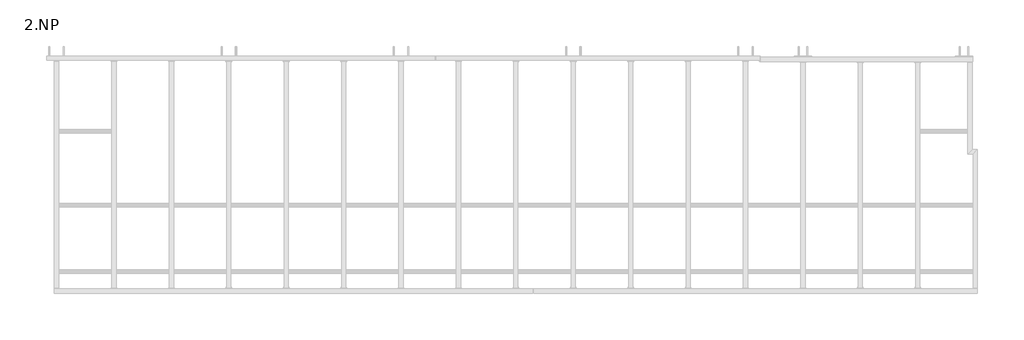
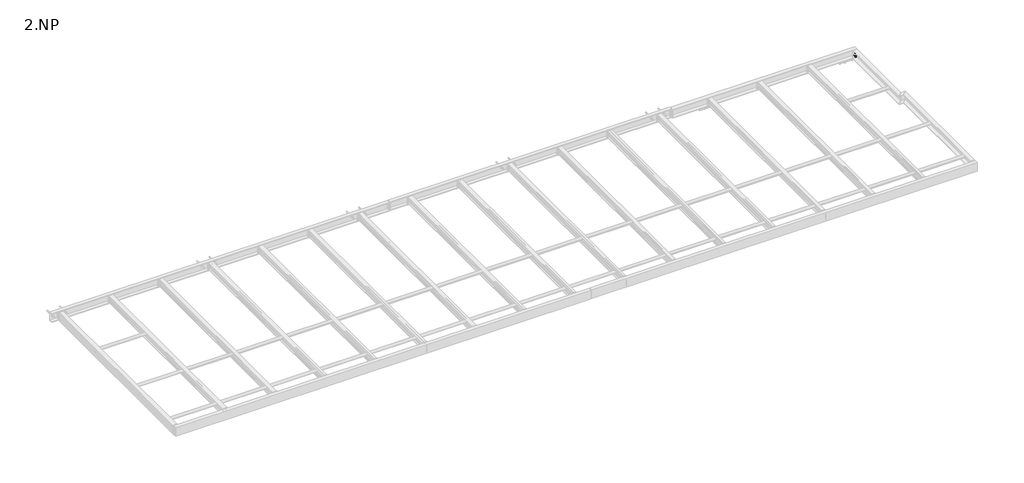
# One storey, part 16 of 18: 21 assemblies, 1 proxy.
"""IFC4 building model written with IfcOpenShell, lengths in millimetres."""

from ifc_helpers import new_model, si_unit, point, frame, frame_2d, origin, place, context, project, spatial, polyline, circle_curve, trimmed, segment, composite_curve, outline, extrude, element, save

model = new_model("IFC4")

# Units and contexts
model_context = context("Model", 3, world=origin())
ifc_project = project(units=[si_unit("LENGTHUNIT", "METRE", prefix="MILLI")], contexts=[model_context])

# Site, building, storey
site = spatial("IfcSite", under=ifc_project)
building = spatial("IfcBuilding", under=site)
storey = spatial("IfcBuildingStorey", under=building, Name="2.NP", Elevation=3000.0)

# Proxy
placement = place(None, origin())
element("IfcBuildingElementProxy", 1, Name="Bolt assembly", ObjectType="Bolt assembly", at=placement, inside=storey, context=model_context, shape_type="SweptSolid", body=[
    extrude(outline(composite_curve([segment(trimmed(circle_curve(frame_2d((3170.0, 15960.0)), 9.0), [point((3170.0, 15969.0))], [point((3170.0, 15951.0))], False, "CARTESIAN"), True, "CONTINUOUS"), segment(trimmed(circle_curve(frame_2d((3170.0, 15960.0)), 9.0), [point((3170.0, 15951.0))], [point((3170.0, 15969.0))], False, "CARTESIAN"), True, "CONTINUOUS")], self_intersect=False)), frame((0.0, 3754.9, 0.0), z_axis=(0.0, 1.0, 0.0), x_axis=(0.0, 0.0, 1.0)), (0.0, 0.0, 1.0), 10.0),
    extrude(outline(polyline([(3170.0, 15973.8564065), (3182.0, 15966.9282032), (3182.0, 15953.0717968), (3170.0, 15946.1435935), (3158.0, 15953.0717968), (3158.0, 15966.9282032), (3170.0, 15973.8564065)])), frame((0.0, 3768.0, 0.0), z_axis=(0.0, 1.0, 0.0), x_axis=(0.0, 0.0, 1.0)), (0.0, 0.0, 1.0), 10.0),
    extrude(outline(composite_curve([segment(trimmed(circle_curve(frame_2d((3170.0, 15960.0)), 8.0), [point((3170.0, 15968.0))], [point((3170.0, 15952.0))], False, "CARTESIAN"), True, "CONTINUOUS"), segment(trimmed(circle_curve(frame_2d((3170.0, 15960.0)), 8.0), [point((3170.0, 15952.0))], [point((3170.0, 15968.0))], False, "CARTESIAN"), True, "CONTINUOUS")], self_intersect=False)), frame((0.0, 3718.0, 0.0), z_axis=(0.0, 1.0, 0.0), x_axis=(0.0, 0.0, 1.0)), (0.0, 0.0, 1.0), 50.0),
    extrude(outline(composite_curve([segment(trimmed(circle_curve(frame_2d((3170.0, 15960.0)), 15.0), [point((3170.0, 15975.0))], [point((3170.0, 15945.0))], False, "CARTESIAN"), True, "CONTINUOUS"), segment(trimmed(circle_curve(frame_2d((3170.0, 15960.0)), 15.0), [point((3170.0, 15945.0))], [point((3170.0, 15975.0))], False, "CARTESIAN"), True, "CONTINUOUS")], self_intersect=False)), frame((0.0, 3765.0, 0.0), z_axis=(0.0, 1.0, 0.0), x_axis=(0.0, 0.0, 1.0)), (0.0, 0.0, 1.0), 3.0),
    extrude(outline(composite_curve([segment(trimmed(circle_curve(frame_2d((3170.0, 15960.0)), 15.0), [point((3170.0, 15975.0))], [point((3170.0, 15945.0))], False, "CARTESIAN"), True, "CONTINUOUS"), segment(trimmed(circle_curve(frame_2d((3170.0, 15960.0)), 15.0), [point((3170.0, 15945.0))], [point((3170.0, 15975.0))], False, "CARTESIAN"), True, "CONTINUOUS")], self_intersect=False)), frame((0.0, 3742.0, 0.0), z_axis=(0.0, 1.0, 0.0), x_axis=(0.0, 0.0, 1.0)), (0.0, 0.0, 1.0), 3.0),
    extrude(outline(polyline([(3170.0, 15975.4441197), (3183.375, 15967.7220599), (3183.375, 15952.2779401), (3170.0, 15944.5558803), (3156.625, 15952.2779401), (3156.625, 15967.7220599), (3170.0, 15975.4441197)])), frame((0.0, 3729.0, 0.0), z_axis=(0.0, 1.0, 0.0), x_axis=(0.0, 0.0, 1.0)), (0.0, 0.0, 1.0), 13.0),
    extrude(outline(composite_curve([segment(trimmed(circle_curve(frame_2d((3170.0, 15960.0)), 9.0), [point((3170.0, 15969.0))], [point((3170.0, 15951.0))], False, "CARTESIAN"), True, "CONTINUOUS"), segment(trimmed(circle_curve(frame_2d((3170.0, 15960.0)), 9.0), [point((3170.0, 15951.0))], [point((3170.0, 15969.0))], False, "CARTESIAN"), True, "CONTINUOUS")], self_intersect=False)), frame((0.0, 3745.0, 0.0), z_axis=(0.0, 1.0, 0.0), x_axis=(0.0, 0.0, 1.0)), (0.0, 0.0, 1.0), 10.1),
    extrude(outline(composite_curve([segment(trimmed(circle_curve(frame_2d((3250.0, 15960.0)), 9.0), [point((3250.0, 15969.0))], [point((3250.0, 15951.0))], False, "CARTESIAN"), True, "CONTINUOUS"), segment(trimmed(circle_curve(frame_2d((3250.0, 15960.0)), 9.0), [point((3250.0, 15951.0))], [point((3250.0, 15969.0))], False, "CARTESIAN"), True, "CONTINUOUS")], self_intersect=False)), frame((0.0, 3754.9, 0.0), z_axis=(0.0, 1.0, 0.0), x_axis=(0.0, 0.0, 1.0)), (0.0, 0.0, 1.0), 10.0),
    extrude(outline(polyline([(3250.0, 15973.8564065), (3262.0, 15966.9282032), (3262.0, 15953.0717968), (3250.0, 15946.1435935), (3238.0, 15953.0717968), (3238.0, 15966.9282032), (3250.0, 15973.8564065)])), frame((0.0, 3768.0, 0.0), z_axis=(0.0, 1.0, 0.0), x_axis=(0.0, 0.0, 1.0)), (0.0, 0.0, 1.0), 10.0),
    extrude(outline(composite_curve([segment(trimmed(circle_curve(frame_2d((3250.0, 15960.0)), 8.0), [point((3250.0, 15968.0))], [point((3250.0, 15952.0))], False, "CARTESIAN"), True, "CONTINUOUS"), segment(trimmed(circle_curve(frame_2d((3250.0, 15960.0)), 8.0), [point((3250.0, 15952.0))], [point((3250.0, 15968.0))], False, "CARTESIAN"), True, "CONTINUOUS")], self_intersect=False)), frame((0.0, 3718.0, 0.0), z_axis=(0.0, 1.0, 0.0), x_axis=(0.0, 0.0, 1.0)), (0.0, 0.0, 1.0), 50.0),
    extrude(outline(composite_curve([segment(trimmed(circle_curve(frame_2d((3250.0, 15960.0)), 15.0), [point((3250.0, 15975.0))], [point((3250.0, 15945.0))], False, "CARTESIAN"), True, "CONTINUOUS"), segment(trimmed(circle_curve(frame_2d((3250.0, 15960.0)), 15.0), [point((3250.0, 15945.0))], [point((3250.0, 15975.0))], False, "CARTESIAN"), True, "CONTINUOUS")], self_intersect=False)), frame((0.0, 3765.0, 0.0), z_axis=(0.0, 1.0, 0.0), x_axis=(0.0, 0.0, 1.0)), (0.0, 0.0, 1.0), 3.0),
    extrude(outline(composite_curve([segment(trimmed(circle_curve(frame_2d((3250.0, 15960.0)), 15.0), [point((3250.0, 15975.0))], [point((3250.0, 15945.0))], False, "CARTESIAN"), True, "CONTINUOUS"), segment(trimmed(circle_curve(frame_2d((3250.0, 15960.0)), 15.0), [point((3250.0, 15945.0))], [point((3250.0, 15975.0))], False, "CARTESIAN"), True, "CONTINUOUS")], self_intersect=False)), frame((0.0, 3742.0, 0.0), z_axis=(0.0, 1.0, 0.0), x_axis=(0.0, 0.0, 1.0)), (0.0, 0.0, 1.0), 3.0),
    extrude(outline(polyline([(3250.0, 15975.4441197), (3263.375, 15967.7220599), (3263.375, 15952.2779401), (3250.0, 15944.5558803), (3236.625, 15952.2779401), (3236.625, 15967.7220599), (3250.0, 15975.4441197)])), frame((0.0, 3729.0, 0.0), z_axis=(0.0, 1.0, 0.0), x_axis=(0.0, 0.0, 1.0)), (0.0, 0.0, 1.0), 13.0),
    extrude(outline(composite_curve([segment(trimmed(circle_curve(frame_2d((3250.0, 15960.0)), 9.0), [point((3250.0, 15969.0))], [point((3250.0, 15951.0))], False, "CARTESIAN"), True, "CONTINUOUS"), segment(trimmed(circle_curve(frame_2d((3250.0, 15960.0)), 9.0), [point((3250.0, 15951.0))], [point((3250.0, 15969.0))], False, "CARTESIAN"), True, "CONTINUOUS")], self_intersect=False)), frame((0.0, 3745.0, 0.0), z_axis=(0.0, 1.0, 0.0), x_axis=(0.0, 0.0, 1.0)), (0.0, 0.0, 1.0), 10.1),
])

# Assemblies
element("IfcElementAssembly", 2, at=placement, inside=storey, context=model_context, shape_type="SweptSolid", body=[
    extrude(outline(composite_curve([segment(trimmed(circle_curve(frame_2d((1260.0, 3230.0)), 30.15), [point((1290.15, 3230.0))], [point((1229.85, 3230.0))], False, "CARTESIAN"), True, "CONTINUOUS"), segment(trimmed(circle_curve(frame_2d((1260.0, 3230.0)), 30.15), [point((1229.85, 3230.0))], [point((1290.15, 3230.0))], False, "CARTESIAN"), True, "CONTINUOUS")], self_intersect=False), holes=[composite_curve([segment(trimmed(circle_curve(frame_2d((1260.0, 3230.0)), 25.15), [point((1285.15, 3230.0))], [point((1234.85, 3230.0))], True, "CARTESIAN"), True, "CONTINUOUS"), segment(trimmed(circle_curve(frame_2d((1260.0, 3230.0)), 25.15), [point((1234.85, 3230.0))], [point((1285.15, 3230.0))], True, "CARTESIAN"), True, "CONTINUOUS")], self_intersect=False)]), frame((15.45, 0.0, 0.0), z_axis=(1.0, 0.0, 0.0), x_axis=(0.0, 1.0, 0.0)), (0.0, 0.0, 1.0), 1032.2),
])
element("IfcElementAssembly", 3, at=placement, inside=storey, context=model_context, shape_type="SweptSolid", body=[
    extrude(outline(composite_curve([segment(trimmed(circle_curve(frame_2d((1260.0, 3230.0)), 30.15), [point((1290.15, 3230.0))], [point((1229.85, 3230.0))], False, "CARTESIAN"), True, "CONTINUOUS"), segment(trimmed(circle_curve(frame_2d((1260.0, 3230.0)), 30.15), [point((1229.85, 3230.0))], [point((1290.15, 3230.0))], False, "CARTESIAN"), True, "CONTINUOUS")], self_intersect=False), holes=[composite_curve([segment(trimmed(circle_curve(frame_2d((1260.0, 3230.0)), 25.15), [point((1285.15, 3230.0))], [point((1234.85, 3230.0))], True, "CARTESIAN"), True, "CONTINUOUS"), segment(trimmed(circle_curve(frame_2d((1260.0, 3230.0)), 25.15), [point((1234.85, 3230.0))], [point((1285.15, 3230.0))], True, "CARTESIAN"), True, "CONTINUOUS")], self_intersect=False)]), frame((1052.35, 0.0, 0.0), z_axis=(1.0, 0.0, 0.0), x_axis=(0.0, 1.0, 0.0)), (0.0, 0.0, 1.0), 995.3),
])
element("IfcElementAssembly", 4, at=placement, inside=storey, context=model_context, shape_type="SweptSolid", body=[
    extrude(outline(composite_curve([segment(trimmed(circle_curve(frame_2d((1260.0, 3230.0)), 30.15), [point((1290.15, 3230.0))], [point((1229.85, 3230.0))], False, "CARTESIAN"), True, "CONTINUOUS"), segment(trimmed(circle_curve(frame_2d((1260.0, 3230.0)), 30.15), [point((1229.85, 3230.0))], [point((1290.15, 3230.0))], False, "CARTESIAN"), True, "CONTINUOUS")], self_intersect=False), holes=[composite_curve([segment(trimmed(circle_curve(frame_2d((1260.0, 3230.0)), 25.15), [point((1285.15, 3230.0))], [point((1234.85, 3230.0))], True, "CARTESIAN"), True, "CONTINUOUS"), segment(trimmed(circle_curve(frame_2d((1260.0, 3230.0)), 25.15), [point((1234.85, 3230.0))], [point((1285.15, 3230.0))], True, "CARTESIAN"), True, "CONTINUOUS")], self_intersect=False)]), frame((2052.35, 0.0, 0.0), z_axis=(1.0, 0.0, 0.0), x_axis=(0.0, 1.0, 0.0)), (0.0, 0.0, 1.0), 995.3),
])
element("IfcElementAssembly", 5, at=placement, inside=storey, context=model_context, shape_type="SweptSolid", body=[
    extrude(outline(composite_curve([segment(trimmed(circle_curve(frame_2d((1260.0, 3230.0)), 30.15), [point((1290.15, 3230.0))], [point((1229.85, 3230.0))], False, "CARTESIAN"), True, "CONTINUOUS"), segment(trimmed(circle_curve(frame_2d((1260.0, 3230.0)), 30.15), [point((1229.85, 3230.0))], [point((1290.15, 3230.0))], False, "CARTESIAN"), True, "CONTINUOUS")], self_intersect=False), holes=[composite_curve([segment(trimmed(circle_curve(frame_2d((1260.0, 3230.0)), 25.15), [point((1285.15, 3230.0))], [point((1234.85, 3230.0))], True, "CARTESIAN"), True, "CONTINUOUS"), segment(trimmed(circle_curve(frame_2d((1260.0, 3230.0)), 25.15), [point((1234.85, 3230.0))], [point((1285.15, 3230.0))], True, "CARTESIAN"), True, "CONTINUOUS")], self_intersect=False)]), frame((3052.35, 0.0, 0.0), z_axis=(1.0, 0.0, 0.0), x_axis=(0.0, 1.0, 0.0)), (0.0, 0.0, 1.0), 995.3),
])
element("IfcElementAssembly", 6, at=placement, inside=storey, context=model_context, shape_type="SweptSolid", body=[
    extrude(outline(composite_curve([segment(trimmed(circle_curve(frame_2d((1260.0, 3230.0)), 30.15), [point((1290.15, 3230.0))], [point((1229.85, 3230.0))], False, "CARTESIAN"), True, "CONTINUOUS"), segment(trimmed(circle_curve(frame_2d((1260.0, 3230.0)), 30.15), [point((1229.85, 3230.0))], [point((1290.15, 3230.0))], False, "CARTESIAN"), True, "CONTINUOUS")], self_intersect=False), holes=[composite_curve([segment(trimmed(circle_curve(frame_2d((1260.0, 3230.0)), 25.15), [point((1285.15, 3230.0))], [point((1234.85, 3230.0))], True, "CARTESIAN"), True, "CONTINUOUS"), segment(trimmed(circle_curve(frame_2d((1260.0, 3230.0)), 25.15), [point((1234.85, 3230.0))], [point((1285.15, 3230.0))], True, "CARTESIAN"), True, "CONTINUOUS")], self_intersect=False)]), frame((4052.35, 0.0, 0.0), z_axis=(1.0, 0.0, 0.0), x_axis=(0.0, 1.0, 0.0)), (0.0, 0.0, 1.0), 995.3),
])
element("IfcElementAssembly", 7, at=placement, inside=storey, context=model_context, shape_type="SweptSolid", body=[
    extrude(outline(composite_curve([segment(trimmed(circle_curve(frame_2d((1260.0, 3230.0)), 30.15), [point((1290.15, 3230.0))], [point((1229.85, 3230.0))], False, "CARTESIAN"), True, "CONTINUOUS"), segment(trimmed(circle_curve(frame_2d((1260.0, 3230.0)), 30.15), [point((1229.85, 3230.0))], [point((1290.15, 3230.0))], False, "CARTESIAN"), True, "CONTINUOUS")], self_intersect=False), holes=[composite_curve([segment(trimmed(circle_curve(frame_2d((1260.0, 3230.0)), 25.15), [point((1285.15, 3230.0))], [point((1234.85, 3230.0))], True, "CARTESIAN"), True, "CONTINUOUS"), segment(trimmed(circle_curve(frame_2d((1260.0, 3230.0)), 25.15), [point((1234.85, 3230.0))], [point((1285.15, 3230.0))], True, "CARTESIAN"), True, "CONTINUOUS")], self_intersect=False)]), frame((5052.35, 0.0, 0.0), z_axis=(1.0, 0.0, 0.0), x_axis=(0.0, 1.0, 0.0)), (0.0, 0.0, 1.0), 995.3),
])
element("IfcElementAssembly", 8, at=placement, inside=storey, context=model_context, shape_type="SweptSolid", body=[
    extrude(outline(composite_curve([segment(trimmed(circle_curve(frame_2d((100.0, 3230.0)), 30.15), [point((130.15, 3230.0))], [point((69.85, 3230.0))], False, "CARTESIAN"), True, "CONTINUOUS"), segment(trimmed(circle_curve(frame_2d((100.0, 3230.0)), 30.15), [point((69.85, 3230.0))], [point((130.15, 3230.0))], False, "CARTESIAN"), True, "CONTINUOUS")], self_intersect=False), holes=[composite_curve([segment(trimmed(circle_curve(frame_2d((100.0, 3230.0)), 25.15), [point((125.15, 3230.0))], [point((74.85, 3230.0))], True, "CARTESIAN"), True, "CONTINUOUS"), segment(trimmed(circle_curve(frame_2d((100.0, 3230.0)), 25.15), [point((74.85, 3230.0))], [point((125.15, 3230.0))], True, "CARTESIAN"), True, "CONTINUOUS")], self_intersect=False)]), frame((1052.35, 0.0, 0.0), z_axis=(1.0, 0.0, 0.0), x_axis=(0.0, 1.0, 0.0)), (0.0, 0.0, 1.0), 995.3),
])
element("IfcElementAssembly", 9, at=placement, inside=storey, context=model_context, shape_type="SweptSolid", body=[
    extrude(outline(composite_curve([segment(trimmed(circle_curve(frame_2d((100.0, 3230.0)), 30.15), [point((130.15, 3230.0))], [point((69.85, 3230.0))], False, "CARTESIAN"), True, "CONTINUOUS"), segment(trimmed(circle_curve(frame_2d((100.0, 3230.0)), 30.15), [point((69.85, 3230.0))], [point((130.15, 3230.0))], False, "CARTESIAN"), True, "CONTINUOUS")], self_intersect=False), holes=[composite_curve([segment(trimmed(circle_curve(frame_2d((100.0, 3230.0)), 25.15), [point((125.15, 3230.0))], [point((74.85, 3230.0))], True, "CARTESIAN"), True, "CONTINUOUS"), segment(trimmed(circle_curve(frame_2d((100.0, 3230.0)), 25.15), [point((74.85, 3230.0))], [point((125.15, 3230.0))], True, "CARTESIAN"), True, "CONTINUOUS")], self_intersect=False)]), frame((15.45, 0.0, 0.0), z_axis=(1.0, 0.0, 0.0), x_axis=(0.0, 1.0, 0.0)), (0.0, 0.0, 1.0), 1032.2),
])
element("IfcElementAssembly", 10, at=placement, inside=storey, context=model_context, shape_type="SweptSolid", body=[
    extrude(outline(composite_curve([segment(trimmed(circle_curve(frame_2d((100.0, 3230.0)), 30.15), [point((130.15, 3230.0))], [point((69.85, 3230.0))], False, "CARTESIAN"), True, "CONTINUOUS"), segment(trimmed(circle_curve(frame_2d((100.0, 3230.0)), 30.15), [point((69.85, 3230.0))], [point((130.15, 3230.0))], False, "CARTESIAN"), True, "CONTINUOUS")], self_intersect=False), holes=[composite_curve([segment(trimmed(circle_curve(frame_2d((100.0, 3230.0)), 25.15), [point((125.15, 3230.0))], [point((74.85, 3230.0))], True, "CARTESIAN"), True, "CONTINUOUS"), segment(trimmed(circle_curve(frame_2d((100.0, 3230.0)), 25.15), [point((74.85, 3230.0))], [point((125.15, 3230.0))], True, "CARTESIAN"), True, "CONTINUOUS")], self_intersect=False)]), frame((2052.35, 0.0, 0.0), z_axis=(1.0, 0.0, 0.0), x_axis=(0.0, 1.0, 0.0)), (0.0, 0.0, 1.0), 995.3),
])
element("IfcElementAssembly", 11, at=placement, inside=storey, context=model_context, shape_type="SweptSolid", body=[
    extrude(outline(composite_curve([segment(trimmed(circle_curve(frame_2d((100.0, 3230.0)), 30.15), [point((130.15, 3230.0))], [point((69.85, 3230.0))], False, "CARTESIAN"), True, "CONTINUOUS"), segment(trimmed(circle_curve(frame_2d((100.0, 3230.0)), 30.15), [point((69.85, 3230.0))], [point((130.15, 3230.0))], False, "CARTESIAN"), True, "CONTINUOUS")], self_intersect=False), holes=[composite_curve([segment(trimmed(circle_curve(frame_2d((100.0, 3230.0)), 25.15), [point((125.15, 3230.0))], [point((74.85, 3230.0))], True, "CARTESIAN"), True, "CONTINUOUS"), segment(trimmed(circle_curve(frame_2d((100.0, 3230.0)), 25.15), [point((74.85, 3230.0))], [point((125.15, 3230.0))], True, "CARTESIAN"), True, "CONTINUOUS")], self_intersect=False)]), frame((3052.35, 0.0, 0.0), z_axis=(1.0, 0.0, 0.0), x_axis=(0.0, 1.0, 0.0)), (0.0, 0.0, 1.0), 995.3),
])
element("IfcElementAssembly", 12, at=placement, inside=storey, context=model_context, shape_type="SweptSolid", body=[
    extrude(outline(composite_curve([segment(trimmed(circle_curve(frame_2d((100.0, 3230.0)), 30.15), [point((130.15, 3230.0))], [point((69.85, 3230.0))], False, "CARTESIAN"), True, "CONTINUOUS"), segment(trimmed(circle_curve(frame_2d((100.0, 3230.0)), 30.15), [point((69.85, 3230.0))], [point((130.15, 3230.0))], False, "CARTESIAN"), True, "CONTINUOUS")], self_intersect=False), holes=[composite_curve([segment(trimmed(circle_curve(frame_2d((100.0, 3230.0)), 25.15), [point((125.15, 3230.0))], [point((74.85, 3230.0))], True, "CARTESIAN"), True, "CONTINUOUS"), segment(trimmed(circle_curve(frame_2d((100.0, 3230.0)), 25.15), [point((74.85, 3230.0))], [point((125.15, 3230.0))], True, "CARTESIAN"), True, "CONTINUOUS")], self_intersect=False)]), frame((4052.35, 0.0, 0.0), z_axis=(1.0, 0.0, 0.0), x_axis=(0.0, 1.0, 0.0)), (0.0, 0.0, 1.0), 995.3),
])
element("IfcElementAssembly", 13, at=placement, inside=storey, context=model_context, shape_type="SweptSolid", body=[
    extrude(outline(composite_curve([segment(trimmed(circle_curve(frame_2d((100.0, 3230.0)), 30.15), [point((130.15, 3230.0))], [point((69.85, 3230.0))], False, "CARTESIAN"), True, "CONTINUOUS"), segment(trimmed(circle_curve(frame_2d((100.0, 3230.0)), 30.15), [point((69.85, 3230.0))], [point((130.15, 3230.0))], False, "CARTESIAN"), True, "CONTINUOUS")], self_intersect=False), holes=[composite_curve([segment(trimmed(circle_curve(frame_2d((100.0, 3230.0)), 25.15), [point((125.15, 3230.0))], [point((74.85, 3230.0))], True, "CARTESIAN"), True, "CONTINUOUS"), segment(trimmed(circle_curve(frame_2d((100.0, 3230.0)), 25.15), [point((74.85, 3230.0))], [point((125.15, 3230.0))], True, "CARTESIAN"), True, "CONTINUOUS")], self_intersect=False)]), frame((5052.35, 0.0, 0.0), z_axis=(1.0, 0.0, 0.0), x_axis=(0.0, 1.0, 0.0)), (0.0, 0.0, 1.0), 995.3),
])
element("IfcElementAssembly", 14, at=placement, inside=storey, context=model_context, shape_type="SweptSolid", body=[
    extrude(outline(composite_curve([segment(trimmed(circle_curve(frame_2d((2550.0, 3230.0)), 30.15), [point((2580.15, 3230.0))], [point((2519.85, 3230.0))], False, "CARTESIAN"), True, "CONTINUOUS"), segment(trimmed(circle_curve(frame_2d((2550.0, 3230.0)), 30.15), [point((2519.85, 3230.0))], [point((2580.15, 3230.0))], False, "CARTESIAN"), True, "CONTINUOUS")], self_intersect=False), holes=[composite_curve([segment(trimmed(circle_curve(frame_2d((2550.0, 3230.0)), 25.15), [point((2575.15, 3230.0))], [point((2524.85, 3230.0))], True, "CARTESIAN"), True, "CONTINUOUS"), segment(trimmed(circle_curve(frame_2d((2550.0, 3230.0)), 25.15), [point((2524.85, 3230.0))], [point((2575.15, 3230.0))], True, "CARTESIAN"), True, "CONTINUOUS")], self_intersect=False)]), frame((15.5, 0.0, 0.0), z_axis=(1.0, 0.0, 0.0), x_axis=(0.0, 1.0, 0.0)), (0.0, 0.0, 1.0), 1034.5),
])
element("IfcElementAssembly", 15, at=placement, inside=storey, context=model_context, shape_type="SweptSolid", body=[
    extrude(outline(composite_curve([segment(polyline([(3160.0, 3013.5), (3160.0, 3086.5), (3166.9000001, 3086.5), (3166.9000001, 3059.3499999)]), True, "CONTINUOUS"), segment(trimmed(circle_curve(frame_2d((3173.9000001, 3059.3499999)), 7.0), [point((3166.9000001, 3059.3499999))], [point((3173.9000001, 3052.3499999))], True, "CARTESIAN"), True, "CONTINUOUS"), segment(polyline([(3173.9000001, 3052.3499999), (3286.0999999, 3052.3499999)]), True, "CONTINUOUS"), segment(trimmed(circle_curve(frame_2d((3286.0999999, 3059.3499999)), 7.0), [point((3286.0999999, 3052.3499999))], [point((3293.0999999, 3059.3499999))], True, "CARTESIAN"), True, "CONTINUOUS"), segment(polyline([(3293.0999999, 3059.3499999), (3293.0999999, 3086.5), (3300.0, 3086.5), (3300.0, 3013.5), (3293.0999999, 3013.5), (3293.0999999, 3040.6500001)]), True, "CONTINUOUS"), segment(trimmed(circle_curve(frame_2d((3286.0999999, 3040.6500001)), 7.0), [point((3293.0999999, 3040.6500001))], [point((3286.0999999, 3047.6500001))], True, "CARTESIAN"), True, "CONTINUOUS"), segment(polyline([(3286.0999999, 3047.6500001), (3173.9000001, 3047.6500001)]), True, "CONTINUOUS"), segment(trimmed(circle_curve(frame_2d((3173.9000001, 3040.6500001)), 7.0), [point((3173.9000001, 3047.6500001))], [point((3166.9000001, 3040.6500001))], True, "CARTESIAN"), True, "CONTINUOUS"), segment(polyline([(3166.9000001, 3040.6500001), (3166.9000001, 3013.5), (3160.0, 3013.5)]), True, "CONTINUOUS")], self_intersect=False)), frame((0.0, -180.0, 0.0), z_axis=(0.0, 1.0, 0.0), x_axis=(0.0, 0.0, 1.0)), (0.0, 0.0, 1.0), 3947.0),
    extrude(outline(polyline([(3000.0, 3775.0), (3100.0, 3775.0), (3100.0, 3767.0), (3000.0, 3767.0), (3000.0, 3775.0)])), frame((0.0, 0.0, 3175.0), z_axis=(0.0, 0.0, 1.0), x_axis=(1.0, 0.0, 0.0)), (0.0, 0.0, 1.0), 110.0),
    extrude(outline(polyline([(3000.0, -180.0), (3100.0, -180.0), (3100.0, -190.0), (3000.0, -190.0), (3000.0, -180.0)])), frame((0.0, 0.0, 3166.5), z_axis=(0.0, 0.0, 1.0), x_axis=(1.0, 0.0, 0.0)), (0.0, 0.0, 1.0), 127.0),
])
element("IfcElementAssembly", 16, at=placement, inside=storey, context=model_context, shape_type="SweptSolid", body=[
    extrude(outline(composite_curve([segment(polyline([(3160.0, 4013.5), (3160.0, 4086.5), (3166.9000001, 4086.5), (3166.9000001, 4059.3499999)]), True, "CONTINUOUS"), segment(trimmed(circle_curve(frame_2d((3173.9000001, 4059.3499999)), 7.0), [point((3166.9000001, 4059.3499999))], [point((3173.9000001, 4052.3499999))], True, "CARTESIAN"), True, "CONTINUOUS"), segment(polyline([(3173.9000001, 4052.3499999), (3286.0999999, 4052.3499999)]), True, "CONTINUOUS"), segment(trimmed(circle_curve(frame_2d((3286.0999999, 4059.3499999)), 7.0), [point((3286.0999999, 4052.3499999))], [point((3293.0999999, 4059.3499999))], True, "CARTESIAN"), True, "CONTINUOUS"), segment(polyline([(3293.0999999, 4059.3499999), (3293.0999999, 4086.5), (3300.0, 4086.5), (3300.0, 4013.5), (3293.0999999, 4013.5), (3293.0999999, 4040.6500001)]), True, "CONTINUOUS"), segment(trimmed(circle_curve(frame_2d((3286.0999999, 4040.6500001)), 7.0), [point((3293.0999999, 4040.6500001))], [point((3286.0999999, 4047.6500001))], True, "CARTESIAN"), True, "CONTINUOUS"), segment(polyline([(3286.0999999, 4047.6500001), (3173.9000001, 4047.6500001)]), True, "CONTINUOUS"), segment(trimmed(circle_curve(frame_2d((3173.9000001, 4040.6500001)), 7.0), [point((3173.9000001, 4047.6500001))], [point((3166.9000001, 4040.6500001))], True, "CARTESIAN"), True, "CONTINUOUS"), segment(polyline([(3166.9000001, 4040.6500001), (3166.9000001, 4013.5), (3160.0, 4013.5)]), True, "CONTINUOUS")], self_intersect=False)), frame((0.0, -180.0, 0.0), z_axis=(0.0, 1.0, 0.0), x_axis=(0.0, 0.0, 1.0)), (0.0, 0.0, 1.0), 3947.0),
    extrude(outline(polyline([(4000.0, 3775.0), (4100.0, 3775.0), (4100.0, 3767.0), (4000.0, 3767.0), (4000.0, 3775.0)])), frame((0.0, 0.0, 3175.0), z_axis=(0.0, 0.0, 1.0), x_axis=(1.0, 0.0, 0.0)), (0.0, 0.0, 1.0), 110.0),
    extrude(outline(polyline([(4000.0, -180.0), (4100.0, -180.0), (4100.0, -190.0), (4000.0, -190.0), (4000.0, -180.0)])), frame((0.0, 0.0, 3166.5), z_axis=(0.0, 0.0, 1.0), x_axis=(1.0, 0.0, 0.0)), (0.0, 0.0, 1.0), 127.0),
])
element("IfcElementAssembly", 17, at=placement, inside=storey, context=model_context, shape_type="SweptSolid", body=[
    extrude(outline(composite_curve([segment(polyline([(3160.0, 5013.5), (3160.0, 5086.5), (3166.9000001, 5086.5), (3166.9000001, 5059.3499999)]), True, "CONTINUOUS"), segment(trimmed(circle_curve(frame_2d((3173.9000001, 5059.3499999)), 7.0), [point((3166.9000001, 5059.3499999))], [point((3173.9000001, 5052.3499999))], True, "CARTESIAN"), True, "CONTINUOUS"), segment(polyline([(3173.9000001, 5052.3499999), (3286.0999999, 5052.3499999)]), True, "CONTINUOUS"), segment(trimmed(circle_curve(frame_2d((3286.0999999, 5059.3499999)), 7.0), [point((3286.0999999, 5052.3499999))], [point((3293.0999999, 5059.3499999))], True, "CARTESIAN"), True, "CONTINUOUS"), segment(polyline([(3293.0999999, 5059.3499999), (3293.0999999, 5086.5), (3300.0, 5086.5), (3300.0, 5013.5), (3293.0999999, 5013.5), (3293.0999999, 5040.6500001)]), True, "CONTINUOUS"), segment(trimmed(circle_curve(frame_2d((3286.0999999, 5040.6500001)), 7.0), [point((3293.0999999, 5040.6500001))], [point((3286.0999999, 5047.6500001))], True, "CARTESIAN"), True, "CONTINUOUS"), segment(polyline([(3286.0999999, 5047.6500001), (3173.9000001, 5047.6500001)]), True, "CONTINUOUS"), segment(trimmed(circle_curve(frame_2d((3173.9000001, 5040.6500001)), 7.0), [point((3173.9000001, 5047.6500001))], [point((3166.9000001, 5040.6500001))], True, "CARTESIAN"), True, "CONTINUOUS"), segment(polyline([(3166.9000001, 5040.6500001), (3166.9000001, 5013.5), (3160.0, 5013.5)]), True, "CONTINUOUS")], self_intersect=False)), frame((0.0, -180.0, 0.0), z_axis=(0.0, 1.0, 0.0), x_axis=(0.0, 0.0, 1.0)), (0.0, 0.0, 1.0), 3947.0),
    extrude(outline(polyline([(5000.0, 3775.0), (5100.0, 3775.0), (5100.0, 3767.0), (5000.0, 3767.0), (5000.0, 3775.0)])), frame((0.0, 0.0, 3175.0), z_axis=(0.0, 0.0, 1.0), x_axis=(1.0, 0.0, 0.0)), (0.0, 0.0, 1.0), 110.0),
    extrude(outline(polyline([(5000.0, -180.0), (5100.0, -180.0), (5100.0, -190.0), (5000.0, -190.0), (5000.0, -180.0)])), frame((0.0, 0.0, 3166.5), z_axis=(0.0, 0.0, 1.0), x_axis=(1.0, 0.0, 0.0)), (0.0, 0.0, 1.0), 127.0),
])
element("IfcElementAssembly", 18, at=placement, inside=storey, context=model_context, shape_type="SweptSolid", body=[
    extrude(outline(composite_curve([segment(polyline([(3160.0, 2013.5), (3160.0, 2086.5), (3166.9000001, 2086.5), (3166.9000001, 2059.3499999)]), True, "CONTINUOUS"), segment(trimmed(circle_curve(frame_2d((3173.9000001, 2059.3499999)), 7.0), [point((3166.9000001, 2059.3499999))], [point((3173.9000001, 2052.3499999))], True, "CARTESIAN"), True, "CONTINUOUS"), segment(polyline([(3173.9000001, 2052.3499999), (3286.0999999, 2052.3499999)]), True, "CONTINUOUS"), segment(trimmed(circle_curve(frame_2d((3286.0999999, 2059.3499999)), 7.0), [point((3286.0999999, 2052.3499999))], [point((3293.0999999, 2059.3499999))], True, "CARTESIAN"), True, "CONTINUOUS"), segment(polyline([(3293.0999999, 2059.3499999), (3293.0999999, 2086.5), (3300.0, 2086.5), (3300.0, 2013.5), (3293.0999999, 2013.5), (3293.0999999, 2040.6500001)]), True, "CONTINUOUS"), segment(trimmed(circle_curve(frame_2d((3286.0999999, 2040.6500001)), 7.0), [point((3293.0999999, 2040.6500001))], [point((3286.0999999, 2047.6500001))], True, "CARTESIAN"), True, "CONTINUOUS"), segment(polyline([(3286.0999999, 2047.6500001), (3173.9000001, 2047.6500001)]), True, "CONTINUOUS"), segment(trimmed(circle_curve(frame_2d((3173.9000001, 2040.6500001)), 7.0), [point((3173.9000001, 2047.6500001))], [point((3166.9000001, 2040.6500001))], True, "CARTESIAN"), True, "CONTINUOUS"), segment(polyline([(3166.9000001, 2040.6500001), (3166.9000001, 2013.5), (3160.0, 2013.5)]), True, "CONTINUOUS")], self_intersect=False)), frame((0.0, -180.0, 0.0), z_axis=(0.0, 1.0, 0.0), x_axis=(0.0, 0.0, 1.0)), (0.0, 0.0, 1.0), 3947.0),
    extrude(outline(polyline([(2000.0, 3775.0), (2100.0, 3775.0), (2100.0, 3767.0), (2000.0, 3767.0), (2000.0, 3775.0)])), frame((0.0, 0.0, 3175.0), z_axis=(0.0, 0.0, 1.0), x_axis=(1.0, 0.0, 0.0)), (0.0, 0.0, 1.0), 110.0),
    extrude(outline(polyline([(2000.0, -180.0), (2100.0, -180.0), (2100.0, -190.0), (2000.0, -190.0), (2000.0, -180.0)])), frame((0.0, 0.0, 3166.5), z_axis=(0.0, 0.0, 1.0), x_axis=(1.0, 0.0, 0.0)), (0.0, 0.0, 1.0), 127.0),
])
element("IfcElementAssembly", 19, at=placement, inside=storey, context=model_context, shape_type="SweptSolid", body=[
    extrude(outline(composite_curve([segment(polyline([(3160.0, 1013.5), (3160.0, 1086.5), (3166.9000001, 1086.5), (3166.9000001, 1059.3499999)]), True, "CONTINUOUS"), segment(trimmed(circle_curve(frame_2d((3173.9000001, 1059.3499999)), 7.0), [point((3166.9000001, 1059.3499999))], [point((3173.9000001, 1052.3499999))], True, "CARTESIAN"), True, "CONTINUOUS"), segment(polyline([(3173.9000001, 1052.3499999), (3286.0999999, 1052.3499999)]), True, "CONTINUOUS"), segment(trimmed(circle_curve(frame_2d((3286.0999999, 1059.3499999)), 7.0), [point((3286.0999999, 1052.3499999))], [point((3293.0999999, 1059.3499999))], True, "CARTESIAN"), True, "CONTINUOUS"), segment(polyline([(3293.0999999, 1059.3499999), (3293.0999999, 1086.5), (3300.0, 1086.5), (3300.0, 1013.5), (3293.0999999, 1013.5), (3293.0999999, 1040.6500001)]), True, "CONTINUOUS"), segment(trimmed(circle_curve(frame_2d((3286.0999999, 1040.6500001)), 7.0), [point((3293.0999999, 1040.6500001))], [point((3286.0999999, 1047.6500001))], True, "CARTESIAN"), True, "CONTINUOUS"), segment(polyline([(3286.0999999, 1047.6500001), (3173.9000001, 1047.6500001)]), True, "CONTINUOUS"), segment(trimmed(circle_curve(frame_2d((3173.9000001, 1040.6500001)), 7.0), [point((3173.9000001, 1047.6500001))], [point((3166.9000001, 1040.6500001))], True, "CARTESIAN"), True, "CONTINUOUS"), segment(polyline([(3166.9000001, 1040.6500001), (3166.9000001, 1013.5), (3160.0, 1013.5)]), True, "CONTINUOUS")], self_intersect=False)), frame((0.0, -180.0, 0.0), z_axis=(0.0, 1.0, 0.0), x_axis=(0.0, 0.0, 1.0)), (0.0, 0.0, 1.0), 3947.0),
    extrude(outline(polyline([(1000.0, 3775.0), (1100.0, 3775.0), (1100.0, 3767.0), (1000.0, 3767.0), (1000.0, 3775.0)])), frame((0.0, 0.0, 3175.0), z_axis=(0.0, 0.0, 1.0), x_axis=(1.0, 0.0, 0.0)), (0.0, 0.0, 1.0), 110.0),
    extrude(outline(polyline([(1000.0, -180.0), (1100.0, -180.0), (1100.0, -190.0), (1000.0, -190.0), (1000.0, -180.0)])), frame((0.0, 0.0, 3166.5), z_axis=(0.0, 0.0, 1.0), x_axis=(1.0, 0.0, 0.0)), (0.0, 0.0, 1.0), 127.0),
])
element("IfcElementAssembly", 20, at=placement, inside=storey, context=model_context, shape_type="SweptSolid", body=[
    extrude(outline(polyline([(3120.0, 10.0), (3120.0, 85.0), (3130.5, 85.0), (3130.5, 15.5), (3289.5, 15.5), (3289.5, 85.0), (3300.0, 85.0), (3300.0, 10.0), (3120.0, 10.0)])), frame((0.0, -180.0, 0.0), z_axis=(0.0, 1.0, 0.0), x_axis=(0.0, 0.0, 1.0)), (0.0, 0.0, 1.0), 3945.0),
    extrude(outline(polyline([(85.0, -190.0), (10.0, -190.0), (10.0, -180.0), (85.0, -180.0), (85.0, -190.0)])), frame((0.0, 0.0, 3130.0), z_axis=(0.0, 0.0, 1.0), x_axis=(1.0, 0.0, 0.0)), (0.0, 0.0, 1.0), 160.0),
])
element("IfcElementAssembly", 21, at=placement, inside=storey, context=model_context, shape_type="SweptSolid", body=[
    extrude(outline(polyline([(8350.0, -200.0), (8350.0, -270.0), (8340.0, -270.0), (8340.0, -200.0), (8350.0, -200.0)])), frame((0.0, 0.0, 3130.5), z_axis=(0.0, 0.0, 1.0), x_axis=(1.0, 0.0, 0.0)), (0.0, 0.0, 1.0), 159.0),
])
element("IfcElementAssembly", 22, at=placement, inside=storey, context=model_context, shape_type="SweptSolid", body=[
    extrude(outline(polyline([(8360.0, -200.0), (8360.0, -270.0), (8350.0, -270.0), (8350.0, -200.0), (8360.0, -200.0)])), frame((0.0, 0.0, 3130.5), z_axis=(0.0, 0.0, 1.0), x_axis=(1.0, 0.0, 0.0)), (0.0, 0.0, 1.0), 159.0),
    extrude(outline(composite_curve([segment(trimmed(circle_curve(frame_2d((-234.5, 3170.0)), 9.0), [point((-225.5, 3170.0))], [point((-243.5, 3170.0))], False, "CARTESIAN"), True, "CONTINUOUS"), segment(trimmed(circle_curve(frame_2d((-234.5, 3170.0)), 9.0), [point((-243.5, 3170.0))], [point((-225.5, 3170.0))], False, "CARTESIAN"), True, "CONTINUOUS")], self_intersect=False)), frame((8349.9, 0.0, 0.0), z_axis=(1.0, 0.0, 0.0), x_axis=(0.0, 1.0, 0.0)), (0.0, 0.0, 1.0), 10.0),
    extrude(outline(polyline([(-220.6435935, 3170.0), (-227.5717968, 3158.0), (-241.4282032, 3158.0), (-248.3564065, 3170.0), (-241.4282032, 3182.0), (-227.5717968, 3182.0), (-220.6435935, 3170.0)])), frame((8363.0, 0.0, 0.0), z_axis=(1.0, 0.0, 0.0), x_axis=(0.0, 1.0, 0.0)), (0.0, 0.0, 1.0), 10.0),
    extrude(outline(composite_curve([segment(trimmed(circle_curve(frame_2d((-234.5, 3170.0)), 8.0), [point((-226.5, 3170.0))], [point((-242.5, 3170.0))], False, "CARTESIAN"), True, "CONTINUOUS"), segment(trimmed(circle_curve(frame_2d((-234.5, 3170.0)), 8.0), [point((-242.5, 3170.0))], [point((-226.5, 3170.0))], False, "CARTESIAN"), True, "CONTINUOUS")], self_intersect=False)), frame((8313.0, 0.0, 0.0), z_axis=(1.0, 0.0, 0.0), x_axis=(0.0, 1.0, 0.0)), (0.0, 0.0, 1.0), 50.0),
    extrude(outline(composite_curve([segment(trimmed(circle_curve(frame_2d((-234.5, 3170.0)), 15.0), [point((-219.5, 3170.0))], [point((-249.5, 3170.0))], False, "CARTESIAN"), True, "CONTINUOUS"), segment(trimmed(circle_curve(frame_2d((-234.5, 3170.0)), 15.0), [point((-249.5, 3170.0))], [point((-219.5, 3170.0))], False, "CARTESIAN"), True, "CONTINUOUS")], self_intersect=False)), frame((8360.0, 0.0, 0.0), z_axis=(1.0, 0.0, 0.0), x_axis=(0.0, 1.0, 0.0)), (0.0, 0.0, 1.0), 3.0),
    extrude(outline(composite_curve([segment(trimmed(circle_curve(frame_2d((-234.5, 3170.0)), 15.0), [point((-219.5, 3170.0))], [point((-249.5, 3170.0))], False, "CARTESIAN"), True, "CONTINUOUS"), segment(trimmed(circle_curve(frame_2d((-234.5, 3170.0)), 15.0), [point((-249.5, 3170.0))], [point((-219.5, 3170.0))], False, "CARTESIAN"), True, "CONTINUOUS")], self_intersect=False)), frame((8337.0, 0.0, 0.0), z_axis=(1.0, 0.0, 0.0), x_axis=(0.0, 1.0, 0.0)), (0.0, 0.0, 1.0), 3.0),
    extrude(outline(polyline([(-219.0558803, 3170.0), (-226.7779401, 3156.625), (-242.2220599, 3156.625), (-249.9441197, 3170.0), (-242.2220599, 3183.375), (-226.7779401, 3183.375), (-219.0558803, 3170.0)])), frame((8324.0, 0.0, 0.0), z_axis=(1.0, 0.0, 0.0), x_axis=(0.0, 1.0, 0.0)), (0.0, 0.0, 1.0), 13.0),
    extrude(outline(composite_curve([segment(trimmed(circle_curve(frame_2d((-234.5, 3170.0)), 9.0), [point((-225.5, 3170.0))], [point((-243.5, 3170.0))], False, "CARTESIAN"), True, "CONTINUOUS"), segment(trimmed(circle_curve(frame_2d((-234.5, 3170.0)), 9.0), [point((-243.5, 3170.0))], [point((-225.5, 3170.0))], False, "CARTESIAN"), True, "CONTINUOUS")], self_intersect=False)), frame((8340.0, 0.0, 0.0), z_axis=(1.0, 0.0, 0.0), x_axis=(0.0, 1.0, 0.0)), (0.0, 0.0, 1.0), 10.1),
    extrude(outline(composite_curve([segment(trimmed(circle_curve(frame_2d((-234.5, 3250.0)), 9.0), [point((-225.5, 3250.0))], [point((-243.5, 3250.0))], False, "CARTESIAN"), True, "CONTINUOUS"), segment(trimmed(circle_curve(frame_2d((-234.5, 3250.0)), 9.0), [point((-243.5, 3250.0))], [point((-225.5, 3250.0))], False, "CARTESIAN"), True, "CONTINUOUS")], self_intersect=False)), frame((8349.9, 0.0, 0.0), z_axis=(1.0, 0.0, 0.0), x_axis=(0.0, 1.0, 0.0)), (0.0, 0.0, 1.0), 10.0),
    extrude(outline(polyline([(-220.6435935, 3250.0), (-227.5717968, 3238.0), (-241.4282032, 3238.0), (-248.3564065, 3250.0), (-241.4282032, 3262.0), (-227.5717968, 3262.0), (-220.6435935, 3250.0)])), frame((8363.0, 0.0, 0.0), z_axis=(1.0, 0.0, 0.0), x_axis=(0.0, 1.0, 0.0)), (0.0, 0.0, 1.0), 10.0),
    extrude(outline(composite_curve([segment(trimmed(circle_curve(frame_2d((-234.5, 3250.0)), 8.0), [point((-226.5, 3250.0))], [point((-242.5, 3250.0))], False, "CARTESIAN"), True, "CONTINUOUS"), segment(trimmed(circle_curve(frame_2d((-234.5, 3250.0)), 8.0), [point((-242.5, 3250.0))], [point((-226.5, 3250.0))], False, "CARTESIAN"), True, "CONTINUOUS")], self_intersect=False)), frame((8313.0, 0.0, 0.0), z_axis=(1.0, 0.0, 0.0), x_axis=(0.0, 1.0, 0.0)), (0.0, 0.0, 1.0), 50.0),
    extrude(outline(composite_curve([segment(trimmed(circle_curve(frame_2d((-234.5, 3250.0)), 15.0), [point((-219.5, 3250.0))], [point((-249.5, 3250.0))], False, "CARTESIAN"), True, "CONTINUOUS"), segment(trimmed(circle_curve(frame_2d((-234.5, 3250.0)), 15.0), [point((-249.5, 3250.0))], [point((-219.5, 3250.0))], False, "CARTESIAN"), True, "CONTINUOUS")], self_intersect=False)), frame((8360.0, 0.0, 0.0), z_axis=(1.0, 0.0, 0.0), x_axis=(0.0, 1.0, 0.0)), (0.0, 0.0, 1.0), 3.0),
    extrude(outline(composite_curve([segment(trimmed(circle_curve(frame_2d((-234.5, 3250.0)), 15.0), [point((-219.5, 3250.0))], [point((-249.5, 3250.0))], False, "CARTESIAN"), True, "CONTINUOUS"), segment(trimmed(circle_curve(frame_2d((-234.5, 3250.0)), 15.0), [point((-249.5, 3250.0))], [point((-219.5, 3250.0))], False, "CARTESIAN"), True, "CONTINUOUS")], self_intersect=False)), frame((8337.0, 0.0, 0.0), z_axis=(1.0, 0.0, 0.0), x_axis=(0.0, 1.0, 0.0)), (0.0, 0.0, 1.0), 3.0),
    extrude(outline(polyline([(-219.0558803, 3250.0), (-226.7779401, 3236.625), (-242.2220599, 3236.625), (-249.9441197, 3250.0), (-242.2220599, 3263.375), (-226.7779401, 3263.375), (-219.0558803, 3250.0)])), frame((8324.0, 0.0, 0.0), z_axis=(1.0, 0.0, 0.0), x_axis=(0.0, 1.0, 0.0)), (0.0, 0.0, 1.0), 13.0),
    extrude(outline(composite_curve([segment(trimmed(circle_curve(frame_2d((-234.5, 3250.0)), 9.0), [point((-225.5, 3250.0))], [point((-243.5, 3250.0))], False, "CARTESIAN"), True, "CONTINUOUS"), segment(trimmed(circle_curve(frame_2d((-234.5, 3250.0)), 9.0), [point((-243.5, 3250.0))], [point((-225.5, 3250.0))], False, "CARTESIAN"), True, "CONTINUOUS")], self_intersect=False)), frame((8340.0, 0.0, 0.0), z_axis=(1.0, 0.0, 0.0), x_axis=(0.0, 1.0, 0.0)), (0.0, 0.0, 1.0), 10.1),
])

save(model, "model.ifc")
